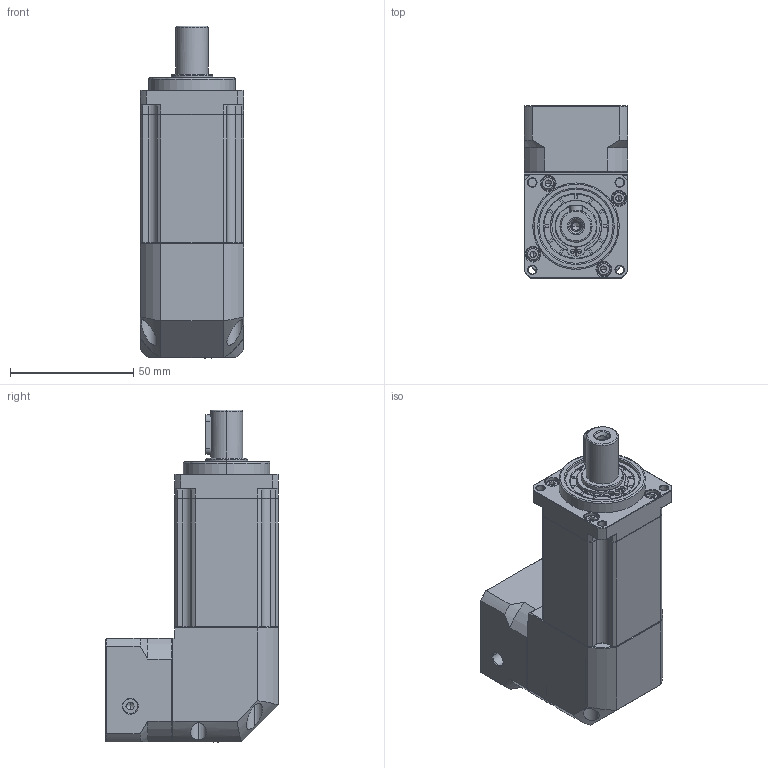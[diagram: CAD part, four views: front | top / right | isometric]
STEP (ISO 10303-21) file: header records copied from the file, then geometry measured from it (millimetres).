
FILE_DESCRIPTION (( 'STEP AP214' ), '1' );
FILE_NAME ('ZBR40-L3-P2-8-30-46-M4.STEP', '2023-06-06T13:13:51', ( 'Windows 蚚誧' ), ( 'Organization' ), 'SwSTEP 2.0', 'SolidWorks 2016', '' );
FILE_SCHEMA (( 'AUTOMOTIVE_DESIGN' ));
Length unit declared in the file: millimetre
Products named in the file (1): ZBR40-L3-P2-8-30-46-M4
Bounding box: 42 x 70 x 134.5 mm (x, y, z)
Volume: 205182.5 mm3; surface area: 45845.2 mm2
Topology: 7 solids, 7 shells, 2483 faces, 6640 edges, 4299 vertices
Faces by surface type: plane 1239, bspline 571, cylinder 405, cone 268
Entity records: 138092 total; most frequent: CARTESIAN_POINT 53454, ORIENTED_EDGE 13236, DIRECTION 9578, EDGE_CURVE 6618, VERTEX_POINT 4299, VECTOR 4236, LINE 4236, EDGE_LOOP 2671
